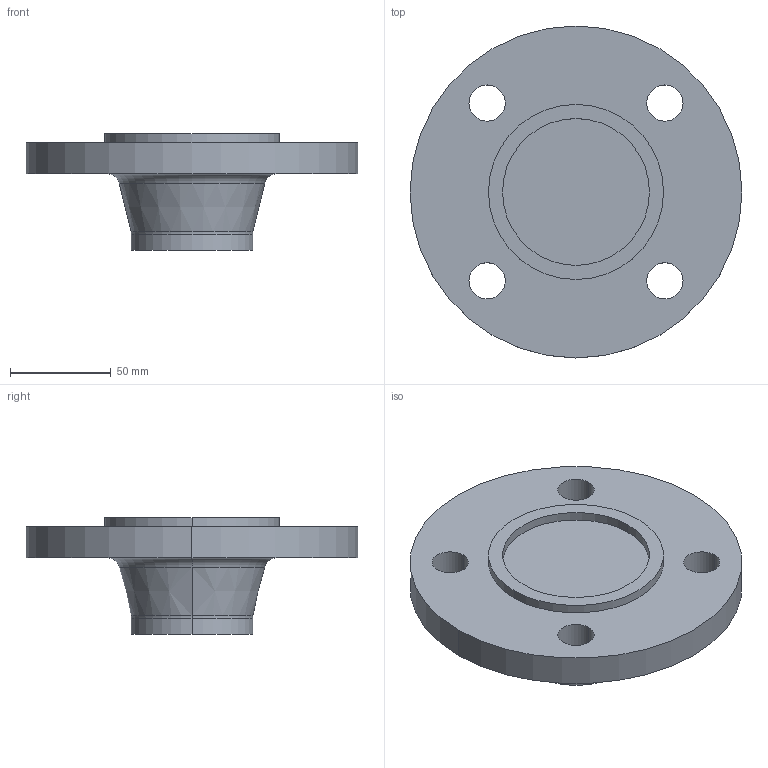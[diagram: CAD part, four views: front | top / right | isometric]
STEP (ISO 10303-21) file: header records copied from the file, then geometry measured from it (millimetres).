
FILE_DESCRIPTION (( 'STEP AP214' ), '1' );
FILE_NAME ('PN40 DN50 Type 21(ii) - Type C Face.STEP', '2018-12-30T03:22:11', ( '' ), ( '' ), 'SwSTEP 2.0', 'SolidWorks 2019', '' );
FILE_SCHEMA (( 'AUTOMOTIVE_DESIGN' ));
Length unit declared in the file: millimetre
Products named in the file (1): PN40 DN50 Type 21(ii) - Type C Face
Bounding box: 165 x 165 x 58 mm (x, y, z)
Volume: 454476.2 mm3; surface area: 60729.6 mm2
Topology: 1 solids, 1 shells, 27 faces, 60 edges, 38 vertices
Faces by surface type: cylinder 16, plane 5, torus 4, cone 2
Entity records: 818 total; most frequent: DIRECTION 158, CARTESIAN_POINT 126, ORIENTED_EDGE 120, AXIS2_PLACEMENT_3D 70, EDGE_CURVE 60, CIRCLE 42, EDGE_LOOP 38, VERTEX_POINT 38
